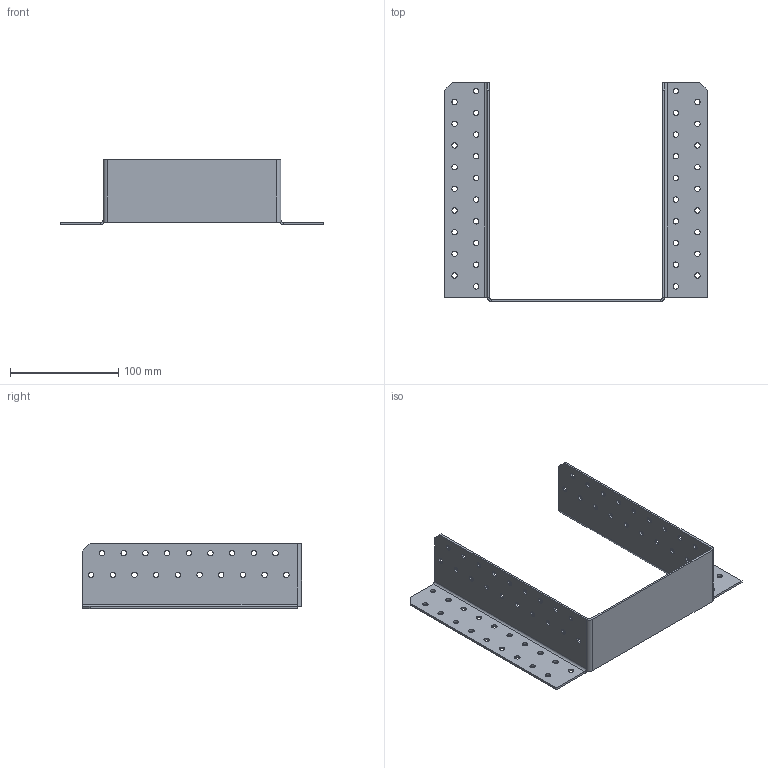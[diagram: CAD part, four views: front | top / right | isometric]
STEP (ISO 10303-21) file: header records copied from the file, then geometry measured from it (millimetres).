
FILE_DESCRIPTION (( 'STEP AP203' ), '1' );
FILE_NAME ('405172.STEP', '2021-04-17T17:11:18', ( '' ), ( '' ), 'SwSTEP 2.0', 'SolidWorks 2013', '' );
FILE_SCHEMA (( 'CONFIG_CONTROL_DESIGN' ));
Length unit declared in the file: millimetre
Products named in the file (1): 405172
Bounding box: 242 x 202 x 60 mm (x, y, z)
Volume: 93397 mm3; surface area: 98548.6 mm2
Topology: 1 solids, 1 shells, 196 faces, 552 edges, 358 vertices
Faces by surface type: cylinder 160, plane 36
Entity records: 6859 total; most frequent: DIRECTION 1268, CARTESIAN_POINT 1107, ORIENTED_EDGE 1104, EDGE_CURVE 552, AXIS2_PLACEMENT_3D 519, VERTEX_POINT 358, EDGE_LOOP 348, CIRCLE 322
